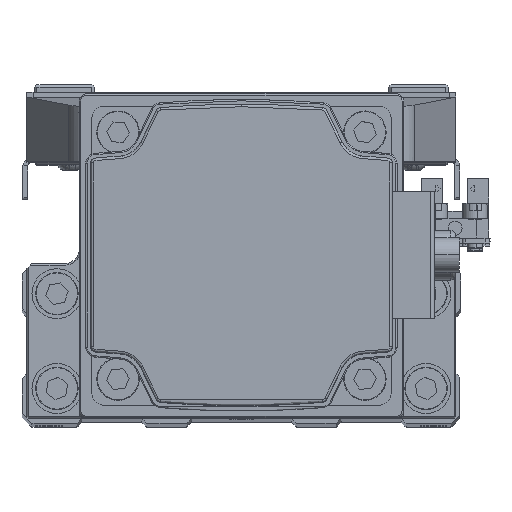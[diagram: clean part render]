
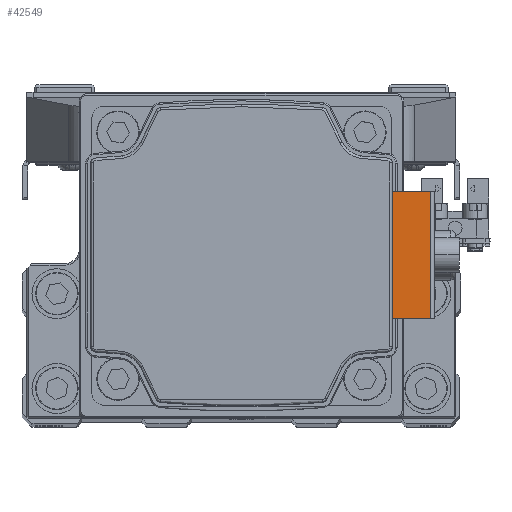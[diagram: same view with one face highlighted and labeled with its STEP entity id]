
A CAD part, top view. The second image highlights one B-rep face of the part: STEP entity #42549.
In plain terms, the highlighted planar face has unit normal (0, 0, 1) as drawn and (0, 0, -1) by its records, which use the part's own axes.
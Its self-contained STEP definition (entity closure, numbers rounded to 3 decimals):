
#742 = CARTESIAN_POINT ( 'NONE',  ( 12.75, 30.2, -88.696 ) ) ;
#2189 = VECTOR ( 'NONE', #39514, 1000. ) ;
#2308 = PLANE ( 'NONE',  #36978 ) ;
#3760 = ORIENTED_EDGE ( 'NONE', *, *, #29079, .T. ) ;
#6148 = EDGE_LOOP ( 'NONE', ( #42479, #3760, #40932, #11677 ) ) ;
#7621 = CARTESIAN_POINT ( 'NONE',  ( 0., 37.9, -88.696 ) ) ;
#8507 = EDGE_CURVE ( 'NONE', #37008, #10133, #26230, .T. ) ;
#8595 = DIRECTION ( 'NONE',  ( 0., 1., 0. ) ) ;
#10133 = VERTEX_POINT ( 'NONE', #18594 ) ;
#10531 = VECTOR ( 'NONE', #8595, 1000. ) ;
#11153 = LINE ( 'NONE', #25329, #2189 ) ;
#11677 = ORIENTED_EDGE ( 'NONE', *, *, #41877, .F. ) ;
#12110 = CARTESIAN_POINT ( 'NONE',  ( -12.75, 30.2, -88.696 ) ) ;
#14916 = LINE ( 'NONE', #29104, #33953 ) ;
#15378 = VERTEX_POINT ( 'NONE', #19134 ) ;
#16469 = CARTESIAN_POINT ( 'NONE',  ( 0., 37.9, -88.696 ) ) ;
#18594 = CARTESIAN_POINT ( 'NONE',  ( -12.75, 37.9, -88.696 ) ) ;
#19134 = CARTESIAN_POINT ( 'NONE',  ( 12.75, 37.9, -88.696 ) ) ;
#21773 = DIRECTION ( 'NONE',  ( 1., 0., 0. ) ) ;
#25329 = CARTESIAN_POINT ( 'NONE',  ( 12.75, 33.991, -88.696 ) ) ;
#26230 = LINE ( 'NONE', #40401, #10531 ) ;
#29079 = EDGE_CURVE ( 'NONE', #10133, #15378, #39431, .T. ) ;
#29104 = CARTESIAN_POINT ( 'NONE',  ( 18.438, 30.2, -88.696 ) ) ;
#30649 = DIRECTION ( 'NONE',  ( 0., 0., -1. ) ) ;
#33953 = VECTOR ( 'NONE', #43255, 1000. ) ;
#34123 = FACE_OUTER_BOUND ( 'NONE', #6148, .T. ) ;
#36506 = VERTEX_POINT ( 'NONE', #742 ) ;
#36978 = AXIS2_PLACEMENT_3D ( 'NONE', #16469, #30649, #44808 ) ;
#37008 = VERTEX_POINT ( 'NONE', #12110 ) ;
#38522 = VECTOR ( 'NONE', #21773, 1000. ) ;
#39431 = LINE ( 'NONE', #7621, #38522 ) ;
#39514 = DIRECTION ( 'NONE',  ( 0., 1., 0. ) ) ;
#40401 = CARTESIAN_POINT ( 'NONE',  ( -12.75, 37.9, -88.696 ) ) ;
#40932 = ORIENTED_EDGE ( 'NONE', *, *, #43668, .F. ) ;
#41877 = EDGE_CURVE ( 'NONE', #37008, #36506, #14916, .T. ) ;
#42479 = ORIENTED_EDGE ( 'NONE', *, *, #8507, .T. ) ;
#42549 = ADVANCED_FACE ( 'NONE', ( #34123 ), #2308, .T. ) ;
#43255 = DIRECTION ( 'NONE',  ( 1., 0., 0. ) ) ;
#43668 = EDGE_CURVE ( 'NONE', #36506, #15378, #11153, .T. ) ;
#44808 = DIRECTION ( 'NONE',  ( -1., 0., 0. ) ) ;
